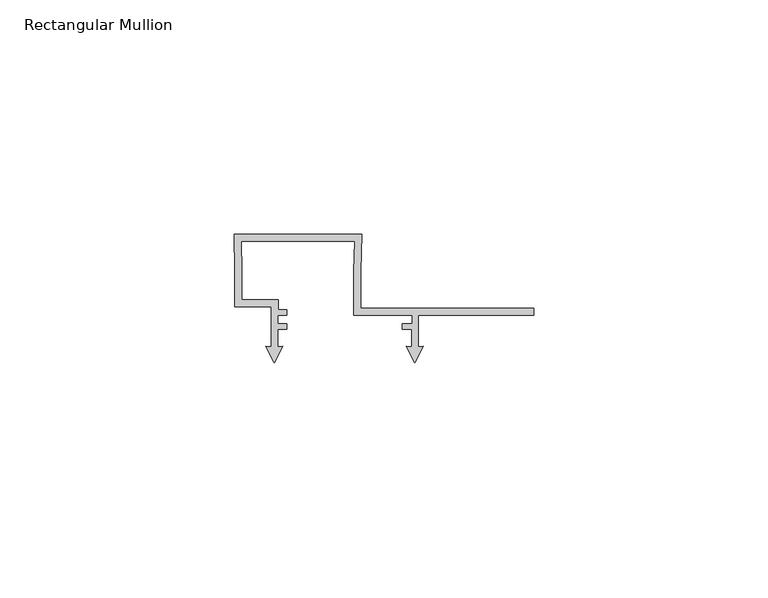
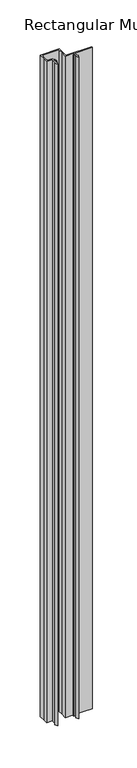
"""IFC4 building model written with IfcOpenShell, lengths in millimetres: member geometry, Rectangular Mullion : Renson_Linarte_LA-B16-01."""

from ifc_helpers import new_model, si_unit, frame, origin, place, context, project, spatial, polyline, outline, extrude, source, transform, mapped, element, save


def rectangular_mullion_d270c674(model_context):
    return source(origin(), model_context, "Body", "SweptSolid", [
        extrude(outline(polyline([(0.0, 52.6000001), (27.279476, 52.6000001), (27.1352165, 44.6039069), (27.1353052, 36.7004291), (64.1, 36.7004291), (64.1, 35.2056679), (39.3351463, 35.2056679), (39.3351463, 28.5038207), (40.4508816, 28.6014348), (38.635145, 25.0378474), (36.8194083, 28.6014348), (37.9351461, 28.5038204), (37.9351461, 32.1999997), (35.942882, 32.1999997), (35.942882, 33.4008281), (38.0351451, 33.4008281), (38.0351451, 35.1999997), (25.6351455, 35.1999997), (25.6351455, 44.6117002), (25.7521689, 51.0999998), (1.5181226, 51.0999998), (1.6351135, 44.6153631), (1.6351472, 38.5997951), (9.4446143, 38.5997951), (9.4446143, 36.4015214), (11.3232242, 36.4015214), (11.3232242, 35.1999954), (9.344327, 35.1999954), (9.344327, 33.4004386), (11.3227094, 33.4004386), (11.3227094, 32.198351), (9.3351463, 32.198351), (9.3351463, 28.5038206), (10.4508827, 28.6014348), (8.6351462, 25.0378474), (6.8194096, 28.6014348), (7.9351461, 28.5038205), (7.9351461, 37.0995654), (0.1443272, 37.0995654), (0.1443272, 44.5977912), (0.0, 52.6000001)])), frame((0.0, 0.0, -1000.0), z_axis=(0.0, 0.0, 1.0), x_axis=(1.0, 0.0, 0.0)), (0.0, 0.0, 1.0), 1000.0),
    ])


if __name__ == "__main__":
    model = new_model("IFC4")
    model_context = context("Model", 3, world=origin())
    ifc_project = project(units=[si_unit("LENGTHUNIT", "METRE", prefix="MILLI")], contexts=[model_context])
    site = spatial("IfcSite", under=ifc_project)
    building = spatial("IfcBuilding", under=site)
    placement = place(None, origin())
    rectangular_mullion_shape = rectangular_mullion_d270c674(model_context)
    element("IfcMember", 1, ObjectType="Rectangular Mullion : Renson_Linarte_LA-B16-01", at=placement, inside=building, context=model_context, shape_type="MappedRepresentation", body=[
        mapped(rectangular_mullion_shape, transform((0.0, 0.0, 0.0), x_axis=(1.0, 0.0, 0.0), y_axis=(0.0, 1.0, 0.0), z_axis=(0.0, 0.0, 1.0))),
    ])
    save(model, "model.ifc")
